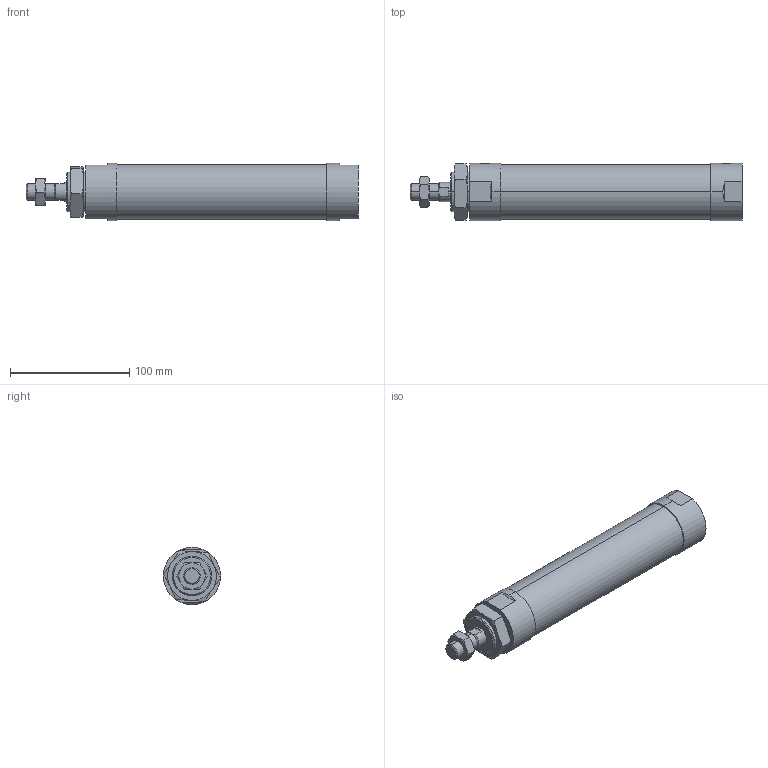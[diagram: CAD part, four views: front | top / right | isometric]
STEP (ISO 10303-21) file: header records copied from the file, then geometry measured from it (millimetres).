
FILE_DESCRIPTION (( 'STEP AP203' ), '1' );
FILE_NAME ('JGND2-40-125-N.STEP', '2016-08-04T03:11:59', ( '' ), ( '' ), 'SwSTEP 2.0', 'SolidWorks 2014', '' );
FILE_SCHEMA (( 'CONFIG_CONTROL_DESIGN' ));
Length unit declared in the file: millimetre
Products named in the file (4): JGND2-40-125-N; J#2-40-125(P)
Assembly tree (3 placements, depth 2):
  JGND2-40-125-N
    J#2-40-125(P)
    (unnamed)
    (unnamed)
Bounding box: 278 x 48 x 48 mm (x, y, z)
Volume: 411923 mm3; surface area: 46903.6 mm2
Topology: 3 solids, 3 shells, 89 faces, 200 edges, 119 vertices
Faces by surface type: plane 32, torus 24, cylinder 20, cone 13
Entity records: 3305 total; most frequent: CARTESIAN_POINT 1001, DIRECTION 395, ORIENTED_EDGE 392, EDGE_CURVE 196, AXIS2_PLACEMENT_3D 167, VERTEX_POINT 119, EDGE_LOOP 99, FACE_OUTER_BOUND 89
